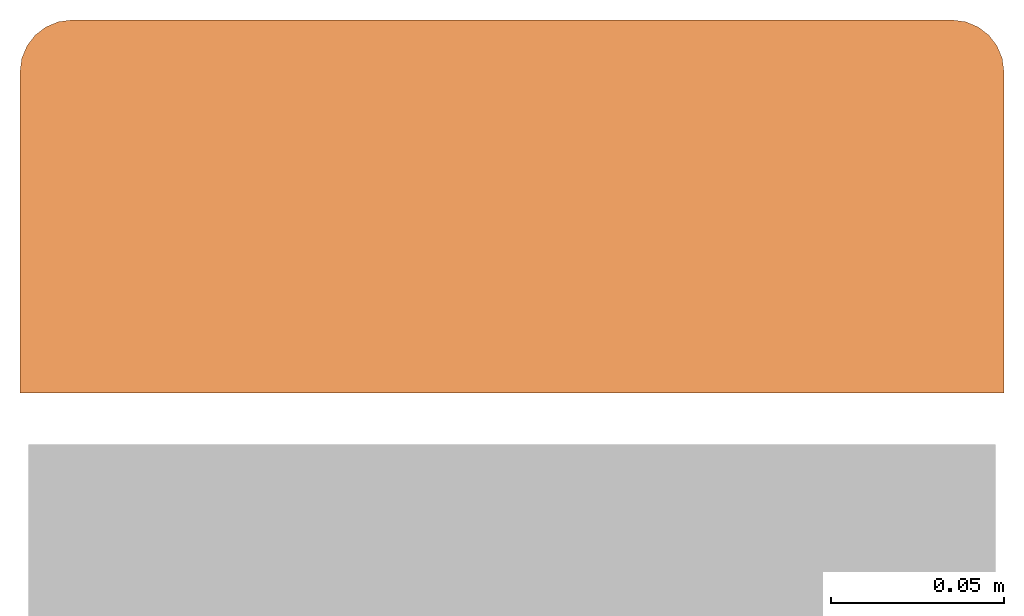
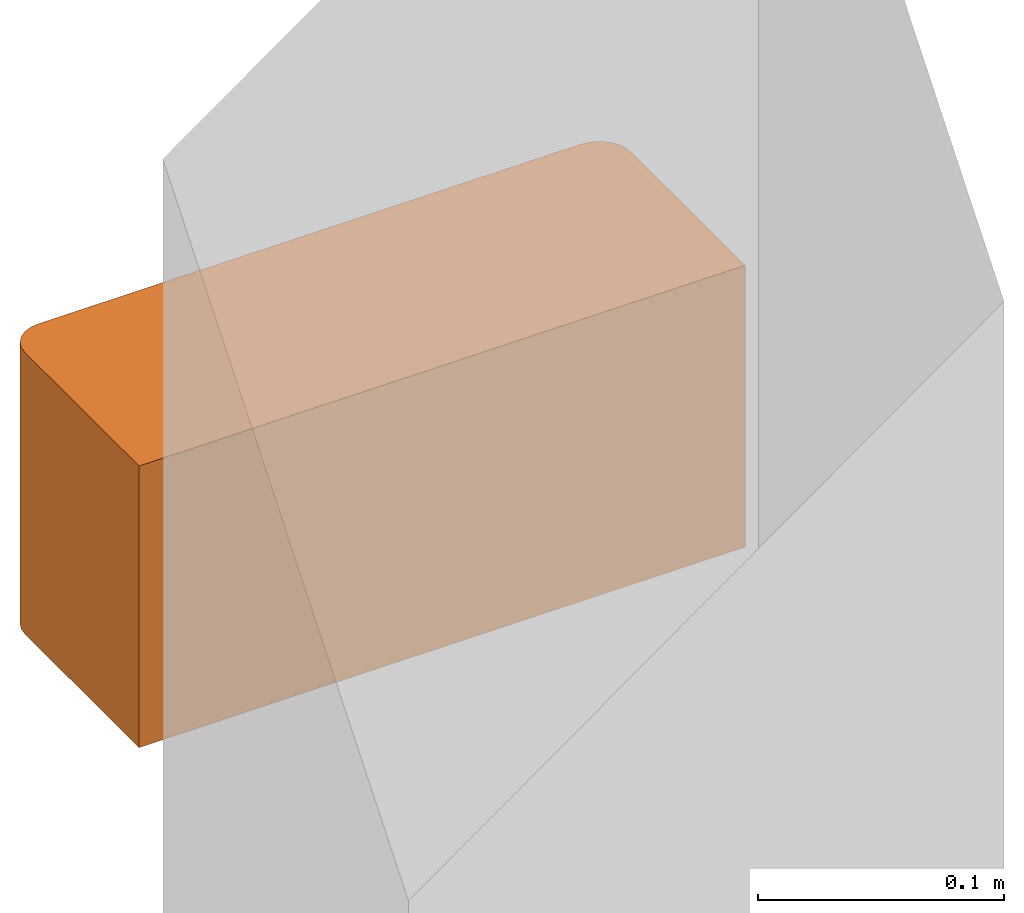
# One storey, part 2 of 2: 1 proxy.
"""IFC2X3 building model written with IfcOpenShell, lengths in millimetres."""

from ifc_helpers import new_model, entity, si_unit, converted_unit, derived_unit, direction, frame, origin, place, context, subcontext, project, spatial, faceted_brep, source, transform, mapped, element, save


model = new_model("IFC2X3")

# Units and contexts
model_context = context("Model", 3, precision=0.01, world=origin(), true_north=direction((6.12303176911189e-17, 1.0)))
context_of_model = context(None, 3, precision=0.01, world=origin(), true_north=direction((6.12303176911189e-17, 1.0)))
body_context = subcontext(model_context, "Body", "Model", "MODEL_VIEW")
ifc_project = project(units=[si_unit("LENGTHUNIT", "METRE", prefix="MILLI"), si_unit("AREAUNIT", "SQUARE_METRE"), si_unit("VOLUMEUNIT", "CUBIC_METRE"), converted_unit("PLANEANGLEUNIT", "DEGREE", entity("IfcRatioMeasure", 0.0174532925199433), si_unit("PLANEANGLEUNIT", "RADIAN"), dimensions=[0, 0, 0, 0, 0, 0, 0]), si_unit("MASSUNIT", "GRAM", prefix="KILO"), si_unit("TIMEUNIT", "SECOND"), si_unit("FREQUENCYUNIT", "HERTZ"), si_unit("THERMODYNAMICTEMPERATUREUNIT", "DEGREE_CELSIUS"), derived_unit("THERMALTRANSMITTANCEUNIT", [(si_unit("MASSUNIT", "GRAM", prefix="KILO"), 1), (si_unit("THERMODYNAMICTEMPERATUREUNIT", "KELVIN"), -1), (si_unit("TIMEUNIT", "SECOND"), -3)]), derived_unit("VOLUMETRICFLOWRATEUNIT", [(si_unit("LENGTHUNIT", "METRE"), 3), (si_unit("TIMEUNIT", "SECOND"), -1)]), si_unit("ELECTRICCURRENTUNIT", "AMPERE"), si_unit("ELECTRICVOLTAGEUNIT", "VOLT"), si_unit("POWERUNIT", "WATT"), si_unit("FORCEUNIT", "NEWTON", prefix="KILO"), si_unit("ILLUMINANCEUNIT", "LUX"), si_unit("LUMINOUSFLUXUNIT", "LUMEN"), si_unit("LUMINOUSINTENSITYUNIT", "CANDELA"), si_unit("PRESSUREUNIT", "PASCAL")], contexts=[model_context, context_of_model])

# Site, building, storey
site_placement = place(None, origin())
site = spatial("IfcSite", under=ifc_project, at=site_placement, Name="Default", CompositionType="ELEMENT")
building_placement = place(site_placement, origin())
building = spatial("IfcBuilding", under=site, at=building_placement, CompositionType="ELEMENT")
storey_placement = place(building_placement, origin())
storey = spatial("IfcBuildingStorey", under=building, at=storey_placement, Name="Level 1", CompositionType="ELEMENT", Elevation=0.0)

# Proxy
shared_shape = source(origin(), body_context, "Body", "Brep", [
    faceted_brep([(16.5952722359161, 108.0, 140.0), (12.7129865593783, 107.488887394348, 140.0), (9.09527223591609, 105.990381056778, 140.0), (5.9886705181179, 103.60660171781, 140.0), (3.6048911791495, 100.500000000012, 140.0), (2.10638484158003, 96.8822856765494, 140.0), (1.595272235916, 93.0, 140.0), (1.595272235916, 0.0, 140.0), (286.595272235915, 0.0, 140.0), (286.595272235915, 93.0, 140.0), (286.084159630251, 96.8822856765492, 140.0), (284.585653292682, 100.500000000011, 140.0), (282.201873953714, 103.60660171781, 140.0), (279.095272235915, 105.990381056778, 140.0), (275.477557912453, 107.488887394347, 140.0), (271.595272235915, 108.0, 140.0), (286.595272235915, 93.0, 0.0), (286.595272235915, 0.0, 0.0), (1.595272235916, 0.0, 0.0), (1.595272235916, 93.0, 0.0), (2.10638484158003, 96.8822856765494, 0.0), (3.6048911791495, 100.500000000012, 0.0), (5.9886705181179, 103.60660171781, 0.0), (9.09527223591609, 105.990381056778, 0.0), (12.7129865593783, 107.488887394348, 0.0), (16.595272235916, 108.0, 0.0), (271.595272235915, 108.0, 0.0), (275.477557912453, 107.488887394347, 0.0), (279.095272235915, 105.990381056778, 0.0), (282.201873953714, 103.60660171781, 0.0), (284.585653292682, 100.500000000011, 0.0), (286.084159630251, 96.8822856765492, 0.0), (218.62460552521, 108.0, 89.4037019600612), (214.095272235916, 108.0, 90.0), (222.845272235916, 108.0, 87.6554445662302), (144.095272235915, 108.0, 90.0), (226.469640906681, 108.0, 84.8743686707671), (229.250716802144, 108.0, 81.2500000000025), (230.998974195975, 108.0, 77.0293332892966), (231.595272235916, 108.0, 72.5000000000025), (230.998974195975, 108.0, 67.9706667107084), (229.250716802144, 108.0, 63.7500000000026), (226.469640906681, 108.0, 60.125631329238), (222.845272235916, 108.0, 57.3445554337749), (218.62460552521, 108.0, 55.5962980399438), (214.095272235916, 108.0, 55.0), (144.095272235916, 108.0, 55.0), (56.5952722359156, 108.0, 72.5000000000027), (74.0952722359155, 108.0, 55.0), (69.5659389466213, 108.0, 55.596298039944), (65.3452722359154, 108.0, 57.344555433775), (61.7209035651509, 108.0, 60.1256313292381), (58.9398276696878, 108.0, 63.7500000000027), (57.1915702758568, 108.0, 67.9706667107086), (57.1915702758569, 108.0, 77.0293332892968), (74.0952722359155, 108.0, 90.0), (69.5659389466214, 108.0, 89.4037019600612), (65.3452722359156, 108.0, 87.6554445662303), (61.720903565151, 108.0, 84.8743686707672), (58.9398276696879, 108.0, 81.2500000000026), (229.250716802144, 61.4454983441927, 81.2500000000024), (230.998974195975, 61.4454983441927, 77.0293332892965), (231.595272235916, 61.4454983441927, 72.5000000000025), (230.998974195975, 61.4454983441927, 67.9706667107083), (229.250716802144, 61.4454983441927, 63.7500000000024), (226.469640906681, 61.4454983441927, 60.1256313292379), (222.845272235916, 61.4454983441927, 57.3445554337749), (218.62460552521, 61.4454983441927, 55.5962980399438), (214.095272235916, 61.4454983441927, 55.0), (144.095272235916, 61.4454983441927, 55.0), (74.0952722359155, 61.4454983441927, 55.0), (69.5659389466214, 61.4454983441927, 55.596298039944), (65.3452722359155, 61.4454983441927, 57.344555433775), (61.7209035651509, 61.4454983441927, 60.1256313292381), (58.9398276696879, 61.4454983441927, 63.7500000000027), (57.1915702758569, 61.4454983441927, 67.9706667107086), (56.5952722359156, 61.4454983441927, 72.5000000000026), (57.1915702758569, 61.4454983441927, 77.0293332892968), (58.9398276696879, 61.4454983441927, 81.2500000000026), (61.720903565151, 61.4454983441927, 84.8743686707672), (65.3452722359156, 61.4454983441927, 87.6554445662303), (69.5659389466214, 61.4454983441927, 89.4037019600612), (74.0952722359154, 61.4454983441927, 90.0), (144.095272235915, 61.4454983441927, 90.0), (214.095272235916, 61.4454983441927, 90.0), (218.62460552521, 61.4454983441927, 89.4037019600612), (222.845272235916, 61.4454983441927, 87.6554445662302), (226.469640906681, 61.4454983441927, 84.8743686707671)], [[[0, 1, 2, 3, 4, 5, 6, 7, 8, 9, 10, 11, 12, 13, 14, 15]], [[16, 17, 18, 19, 20, 21, 22, 23, 24, 25, 26, 27, 28, 29, 30, 31]], [[9, 8, 17, 16]], [[10, 31, 30, 11]], [[11, 30, 29, 12]], [[16, 31, 10, 9]], [[13, 28, 27, 14]], [[14, 27, 26, 15]], [[12, 29, 28, 13]], [[15, 32, 33]], [[32, 15, 34]], [[33, 35, 15]], [[15, 35, 0]], [[36, 34, 15]], [[37, 36, 15]], [[38, 37, 15]], [[15, 39, 38]], [[39, 15, 26]], [[40, 39, 26]], [[40, 26, 41]], [[42, 41, 26]], [[26, 43, 42]], [[43, 26, 44]], [[45, 44, 26]], [[26, 46, 45]], [[46, 26, 25]], [[0, 47, 25]], [[48, 46, 25]], [[25, 49, 48]], [[49, 25, 50]], [[51, 50, 25]], [[51, 25, 52]], [[53, 52, 25]], [[53, 25, 47]], [[54, 47, 0]], [[55, 0, 35]], [[55, 56, 0]], [[57, 0, 56]], [[0, 57, 58]], [[58, 59, 0]], [[59, 54, 0]], [[1, 24, 23, 2]], [[2, 23, 22, 3]], [[25, 24, 1, 0]], [[4, 21, 20, 5]], [[5, 20, 19, 6]], [[3, 22, 21, 4]], [[7, 6, 19, 18]], [[8, 7, 18, 17]], [[60, 61, 62, 63, 64, 65, 66, 67, 68, 69, 70, 71, 72, 73, 74, 75, 76, 77, 78, 79, 80, 81, 82, 83, 84, 85, 86, 87]], [[33, 84, 83, 82, 55, 35]], [[57, 80, 79, 58]], [[54, 59, 78, 77]], [[59, 58, 79, 78]], [[47, 54, 77, 76]], [[81, 56, 55, 82]], [[81, 80, 57, 56]], [[52, 53, 75, 74]], [[52, 74, 73, 51]], [[49, 50, 72, 71]], [[73, 72, 50, 51]], [[48, 49, 71, 70]], [[76, 75, 53, 47]], [[48, 70, 69, 68, 45, 46]], [[43, 44, 67, 66]], [[43, 66, 65, 42]], [[40, 41, 64, 63]], [[65, 64, 41, 42]], [[39, 40, 63, 62]], [[45, 68, 67, 44]], [[37, 38, 61, 60]], [[37, 60, 87, 36]], [[32, 34, 86, 85]], [[87, 86, 34, 36]], [[33, 32, 85, 84]], [[62, 61, 38, 39]]]),
])
proxy_placement = place(storey_placement, frame((148.808976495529, -99.424309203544, 1000.0)))
element("IfcBuildingElementProxy", 1, at=proxy_placement, inside=storey, Name="14709102000bb:d_line_Washroom_WallMountedSanitaryPanels_TissueDispenser", ObjectType="d_line_Washroom_WallMountedSanitaryPanels_TissueDispenser", CompositionType="ELEMENT", context=body_context, shape_type="MappedRepresentation", body=[
    mapped(shared_shape, transform((0.0, 0.0, 0.0), scale=1.0)),
])

save(model, "model.ifc")
